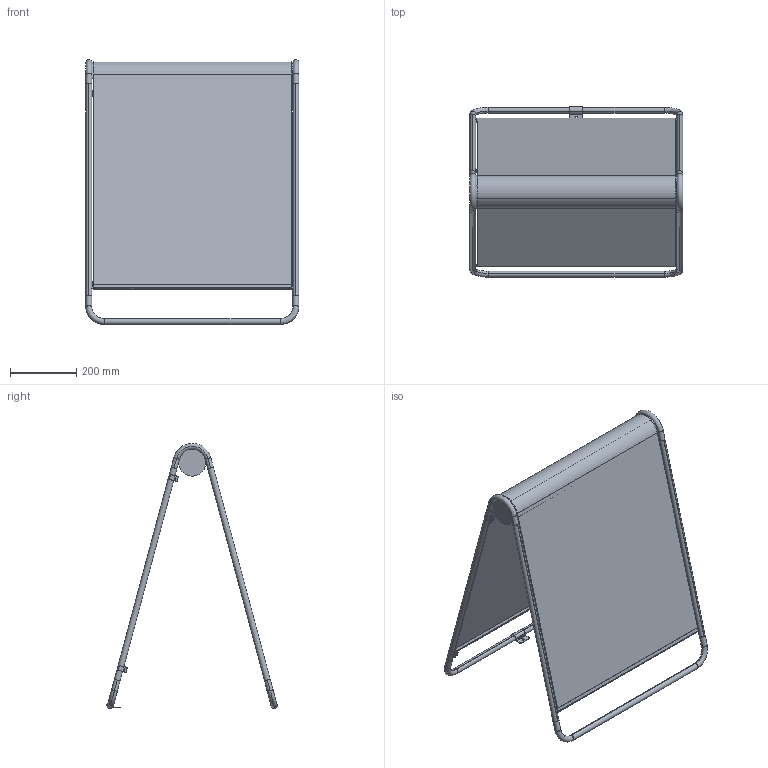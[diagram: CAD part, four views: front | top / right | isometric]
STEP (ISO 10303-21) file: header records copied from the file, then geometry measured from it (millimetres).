
FILE_DESCRIPTION(/* description */ (''),/* implementation_level */ '2;1');
FILE_NAME(/* name */ 'C:\Users\francosartori\Documents\Modelos\01_Digitalizados\0_CADAQUES\03_Publicación\71243 - Vista 3D - {3D}.stp',/* time_stamp */ '2020-06-29T13:43:17+02:00',/* author */ ('FrancoSartori'),/* organization */ (''),/* preprocessor_version */ 'ST-DEVELOPER v18.1',/* originating_system */ 'AutoCAD Mechanical',/* authorisation */ '');
FILE_SCHEMA (('AUTOMOTIVE_DESIGN { 1 0 10303 214 3 1 1 }'));
Length unit declared in the file: millimetre
Products named in the file (2): Product; 71242_71243_CADAQUES - CADAQUES-452143-_3D_
Assembly tree (1 placements, depth 2):
  Product
    71242_71243_CADAQUES - CADAQUES-452143-_3D_
Bounding box: 646.75 x 515.72 x 802.91 mm (x, y, z)
Volume: 2377784.9 mm3; surface area: 2664752.1 mm2
Topology: 18 solids, 18 shells, 206 faces, 454 edges, 276 vertices
Faces by surface type: cylinder 111, plane 71, torus 24
Entity records: 7920 total; most frequent: CARTESIAN_POINT 3307, DIRECTION 974, ORIENTED_EDGE 908, EDGE_CURVE 454, AXIS2_PLACEMENT_3D 383, VERTEX_POINT 276, EDGE_LOOP 220, LINE 208
